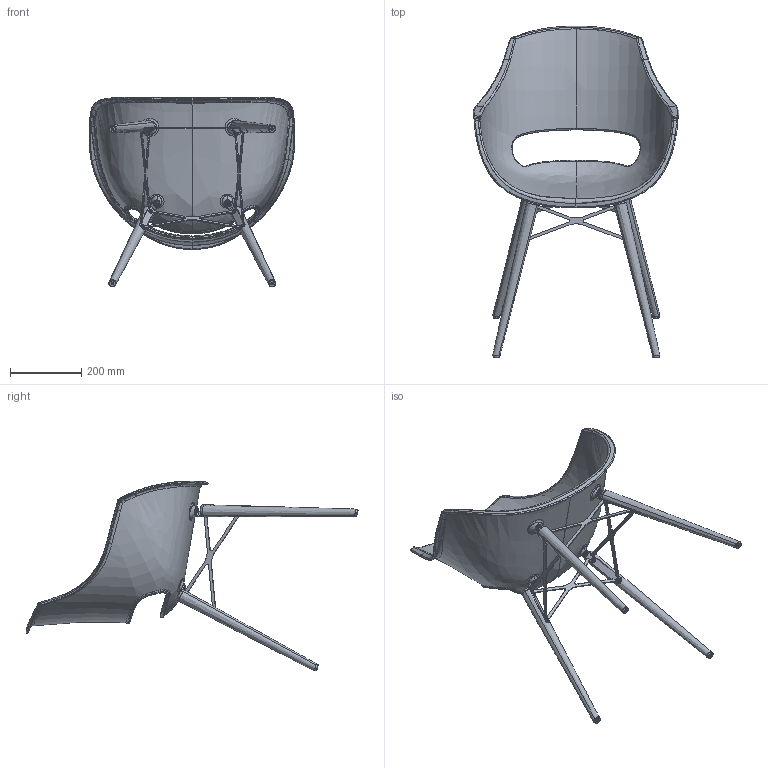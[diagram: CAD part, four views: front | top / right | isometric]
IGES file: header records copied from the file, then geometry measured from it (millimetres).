
Start section: SolidWorks IGES file using analytic representation for surfaces
Global section: file name: C:\Users\GrafikTest\Desktop\SW çizimler\Ahþap Ayak Tasarýmlarý\opal\OPAL WOX.IGS; native system: SolidWorks 2015; preprocessor: SolidWorks 2015; author: GrafikTest; date: 150504.102813; units: millimetre
Bounding box: 576.1 x 930.5 x 532.46 mm (x, y, z)
Surface area: 1140735.6 mm2 (no closed solid volume)
Topology: 0 solids, 0 shells, 1122 faces, 11077 edges, 11064 vertices
Faces by surface type: bspline 842, revolution 280
